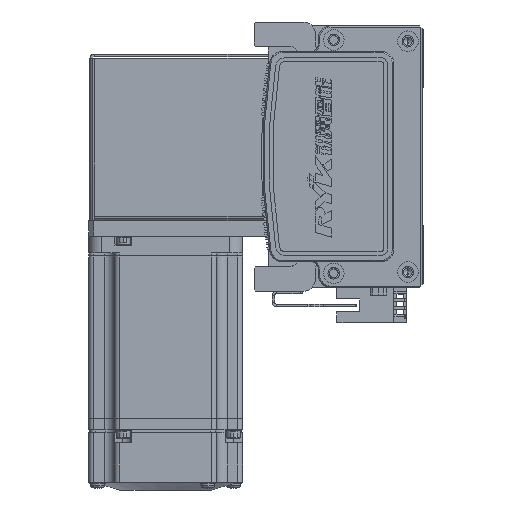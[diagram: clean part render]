
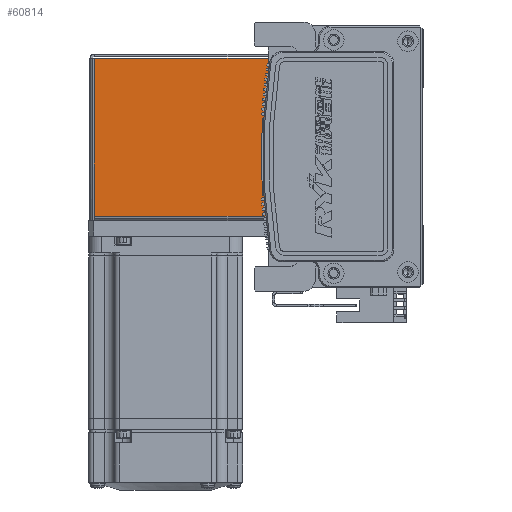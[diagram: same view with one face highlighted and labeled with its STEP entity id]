
A CAD part, left-side view. The second image highlights one B-rep face of the part: STEP entity #60814.
In plain terms, the highlighted planar face has unit normal (-1, 0, 0) as drawn and (0, 0, 1) by its records, which use the part's own axes.
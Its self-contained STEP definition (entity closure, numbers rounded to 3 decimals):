
#1070 = LINE ( 'NONE', #27731, #13392 ) ;
#1229 = VECTOR ( 'NONE', #40702, 1000. ) ;
#4577 = DIRECTION ( 'NONE',  ( -1., 0., 0. ) ) ;
#4739 = EDGE_CURVE ( 'NONE', #50817, #46268, #5757, .T. ) ;
#5757 = LINE ( 'NONE', #14684, #23767 ) ;
#6032 = AXIS2_PLACEMENT_3D ( 'NONE', #6644, #43422, #11926 ) ;
#6644 = CARTESIAN_POINT ( 'NONE',  ( 0., 0., 35. ) ) ;
#11926 = DIRECTION ( 'NONE',  ( -1., 0., 0. ) ) ;
#13392 = VECTOR ( 'NONE', #32591, 1000. ) ;
#14058 = EDGE_LOOP ( 'NONE', ( #51212, #39015, #24244, #57465 ) ) ;
#14684 = CARTESIAN_POINT ( 'NONE',  ( 0., 68.5, 35. ) ) ;
#20305 = EDGE_CURVE ( 'NONE', #24090, #46268, #1070, .T. ) ;
#23529 = VERTEX_POINT ( 'NONE', #34054 ) ;
#23767 = VECTOR ( 'NONE', #4577, 1000. ) ;
#24090 = VERTEX_POINT ( 'NONE', #50075 ) ;
#24244 = ORIENTED_EDGE ( 'NONE', *, *, #20305, .F. ) ;
#27731 = CARTESIAN_POINT ( 'NONE',  ( -30.793, 0., 35. ) ) ;
#32591 = DIRECTION ( 'NONE',  ( 0., 1., 0. ) ) ;
#34054 = CARTESIAN_POINT ( 'NONE',  ( 30.763, 0.737, 35. ) ) ;
#38126 = PLANE ( 'NONE',  #6032 ) ;
#39015 = ORIENTED_EDGE ( 'NONE', *, *, #4739, .T. ) ;
#40702 = DIRECTION ( 'NONE',  ( -1., 0., 0. ) ) ;
#41712 = CARTESIAN_POINT ( 'NONE',  ( 30.763, 0.737, 35. ) ) ;
#42574 = LINE ( 'NONE', #50768, #1229 ) ;
#43422 = DIRECTION ( 'NONE',  ( 0., 0., -1. ) ) ;
#44114 = EDGE_CURVE ( 'NONE', #23529, #50817, #63062, .T. ) ;
#46268 = VERTEX_POINT ( 'NONE', #63503 ) ;
#50075 = CARTESIAN_POINT ( 'NONE',  ( -30.793, 0.737, 35. ) ) ;
#50768 = CARTESIAN_POINT ( 'NONE',  ( -32.5, 0.737, 35. ) ) ;
#50817 = VERTEX_POINT ( 'NONE', #60544 ) ;
#51212 = ORIENTED_EDGE ( 'NONE', *, *, #44114, .T. ) ;
#51556 = VECTOR ( 'NONE', #57998, 1000. ) ;
#57465 = ORIENTED_EDGE ( 'NONE', *, *, #61803, .F. ) ;
#57998 = DIRECTION ( 'NONE',  ( 0., 1., 0. ) ) ;
#58234 = FACE_OUTER_BOUND ( 'NONE', #14058, .T. ) ;
#60544 = CARTESIAN_POINT ( 'NONE',  ( 30.763, 68.5, 35. ) ) ;
#60814 = ADVANCED_FACE ( 'NONE', ( #58234 ), #38126, .F. ) ;
#61803 = EDGE_CURVE ( 'NONE', #23529, #24090, #42574, .T. ) ;
#63062 = LINE ( 'NONE', #41712, #51556 ) ;
#63503 = CARTESIAN_POINT ( 'NONE',  ( -30.793, 68.5, 35. ) ) ;
